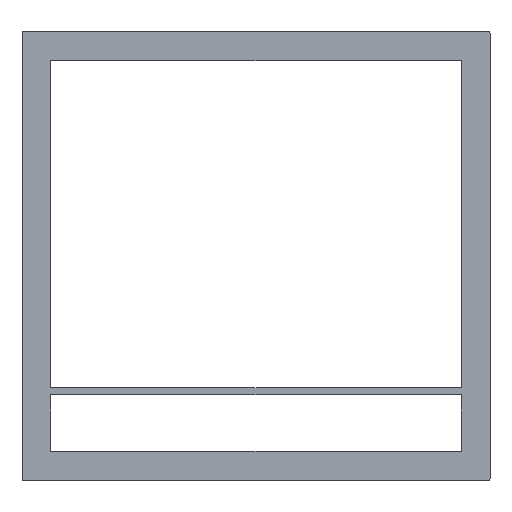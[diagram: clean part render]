
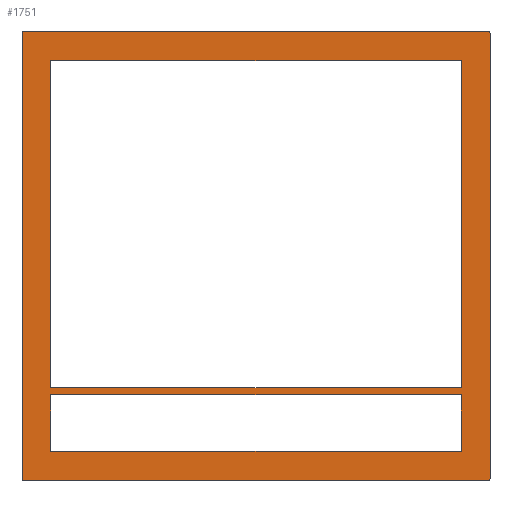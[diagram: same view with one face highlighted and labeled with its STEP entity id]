
A CAD part, top view. The second image highlights one B-rep face of the part: STEP entity #1751.
In plain terms, the highlighted planar face has unit normal (0, 0, 1).
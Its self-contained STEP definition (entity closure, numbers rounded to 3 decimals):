
#201=CARTESIAN_POINT(' ',(178.,169.4,5.));
#202=VERTEX_POINT(' ',#201);
#216=CARTESIAN_POINT(' ',(178.,169.4,5.));
#221=DIRECTION(' ',(-1.,0.,0.));
#226=VECTOR(' ',#221,1.);
#231=LINE('',#216,#226);
#236=CARTESIAN_POINT(' ',(-178.,169.4,5.));
#237=VERTEX_POINT(' ',#236);
#241=EDGE_CURVE(' ',#202,#237,#231,.T.);
#1061=CARTESIAN_POINT(' ',(178.,-114.5,5.));
#1062=VERTEX_POINT(' ',#1061);
#1076=CARTESIAN_POINT(' ',(178.,-114.5,5.));
#1081=DIRECTION(' ',(0.,1.,0.));
#1086=VECTOR(' ',#1081,1.);
#1091=LINE('',#1076,#1086);
#1096=EDGE_CURVE(' ',#1062,#202,#1091,.T.);
#1181=DIRECTION(' ',(0.,0.,1.));
#1186=CARTESIAN_POINT(' ',(-203.,-194.4,5.));
#1191=DIRECTION(' ',(1.,0.,0.));
#1196=AXIS2_PLACEMENT_3D(' ',#1186,#1181,#1191);
#1201=PLANE('',#1196);
#1206=CARTESIAN_POINT(' ',(202.,194.4,5.));
#1211=DIRECTION(' ',(-1.,0.,0.));
#1216=VECTOR(' ',#1211,1.);
#1221=LINE('',#1206,#1216);
#1226=CARTESIAN_POINT(' ',(202.,194.4,5.));
#1227=VERTEX_POINT(' ',#1226);
#1231=CARTESIAN_POINT(' ',(-202.,194.4,5.));
#1232=VERTEX_POINT(' ',#1231);
#1236=EDGE_CURVE(' ',#1227,#1232,#1221,.T.);
#1241=ORIENTED_EDGE(' ',*,*,#1236,.T.);
#1246=CARTESIAN_POINT(' ',(-202.,193.4,5.));
#1251=DIRECTION(' ',(-0.,0.,1.));
#1256=DIRECTION(' ',(0.,1.,0.));
#1261=AXIS2_PLACEMENT_3D(' ',#1246,#1251,#1256);
#1266=CIRCLE('',#1261,1.);
#1271=CARTESIAN_POINT(' ',(-203.,193.4,5.));
#1272=VERTEX_POINT(' ',#1271);
#1276=EDGE_CURVE(' ',#1232,#1272,#1266,.T.);
#1281=ORIENTED_EDGE(' ',*,*,#1276,.T.);
#1286=CARTESIAN_POINT(' ',(-203.,193.4,5.));
#1291=DIRECTION(' ',(0.,-1.,0.));
#1296=VECTOR(' ',#1291,1.);
#1301=LINE('',#1286,#1296);
#1306=CARTESIAN_POINT(' ',(-203.,-193.4,5.));
#1307=VERTEX_POINT(' ',#1306);
#1311=EDGE_CURVE(' ',#1272,#1307,#1301,.T.);
#1316=ORIENTED_EDGE(' ',*,*,#1311,.T.);
#1321=CARTESIAN_POINT(' ',(-202.,-193.4,5.));
#1326=DIRECTION(' ',(-0.,-0.,1.));
#1331=DIRECTION(' ',(-1.,0.,0.));
#1336=AXIS2_PLACEMENT_3D(' ',#1321,#1326,#1331);
#1341=CIRCLE('',#1336,1.);
#1346=CARTESIAN_POINT(' ',(-202.,-194.4,5.));
#1347=VERTEX_POINT(' ',#1346);
#1351=EDGE_CURVE(' ',#1307,#1347,#1341,.T.);
#1356=ORIENTED_EDGE(' ',*,*,#1351,.T.);
#1361=CARTESIAN_POINT(' ',(-202.,-194.4,5.));
#1366=DIRECTION(' ',(1.,0.,0.));
#1371=VECTOR(' ',#1366,1.);
#1376=LINE('',#1361,#1371);
#1381=CARTESIAN_POINT(' ',(202.,-194.4,5.));
#1382=VERTEX_POINT(' ',#1381);
#1386=EDGE_CURVE(' ',#1347,#1382,#1376,.T.);
#1391=ORIENTED_EDGE(' ',*,*,#1386,.T.);
#1396=CARTESIAN_POINT(' ',(202.,-193.4,5.));
#1401=DIRECTION(' ',(0.,-0.,1.));
#1406=DIRECTION(' ',(0.,-1.,0.));
#1411=AXIS2_PLACEMENT_3D(' ',#1396,#1401,#1406);
#1416=CIRCLE('',#1411,1.);
#1421=CARTESIAN_POINT(' ',(203.,-193.4,5.));
#1422=VERTEX_POINT(' ',#1421);
#1426=EDGE_CURVE(' ',#1382,#1422,#1416,.T.);
#1431=ORIENTED_EDGE(' ',*,*,#1426,.T.);
#1436=CARTESIAN_POINT(' ',(203.,-193.4,5.));
#1441=DIRECTION(' ',(0.,1.,0.));
#1446=VECTOR(' ',#1441,1.);
#1451=LINE('',#1436,#1446);
#1456=CARTESIAN_POINT(' ',(203.,193.4,5.));
#1457=VERTEX_POINT(' ',#1456);
#1461=EDGE_CURVE(' ',#1422,#1457,#1451,.T.);
#1466=ORIENTED_EDGE(' ',*,*,#1461,.T.);
#1471=CARTESIAN_POINT(' ',(202.,193.4,5.));
#1476=DIRECTION(' ',(0.,0.,1.));
#1481=DIRECTION(' ',(1.,0.,0.));
#1486=AXIS2_PLACEMENT_3D(' ',#1471,#1476,#1481);
#1491=CIRCLE('',#1486,1.);
#1496=EDGE_CURVE(' ',#1457,#1227,#1491,.T.);
#1501=ORIENTED_EDGE(' ',*,*,#1496,.T.);
#1506=EDGE_LOOP(' ',(#1241,#1281,#1316,#1356,#1391,#1431,#1466,#1501));
#1511=FACE_OUTER_BOUND(' ',#1506,.T.);
#1516=CARTESIAN_POINT(' ',(-178.,-114.5,5.));
#1521=DIRECTION(' ',(1.,0.,0.));
#1526=VECTOR(' ',#1521,1.);
#1531=LINE('',#1516,#1526);
#1536=CARTESIAN_POINT(' ',(-178.,-114.5,5.));
#1537=VERTEX_POINT(' ',#1536);
#1541=EDGE_CURVE(' ',#1537,#1062,#1531,.T.);
#1546=ORIENTED_EDGE(' ',*,*,#1541,.F.);
#1551=CARTESIAN_POINT(' ',(-178.,169.4,5.));
#1556=DIRECTION(' ',(0.,-1.,0.));
#1561=VECTOR(' ',#1556,1.);
#1566=LINE('',#1551,#1561);
#1571=EDGE_CURVE(' ',#237,#1537,#1566,.T.);
#1576=ORIENTED_EDGE(' ',*,*,#1571,.F.);
#1581=ORIENTED_EDGE(' ',*,*,#241,.F.);
#1586=ORIENTED_EDGE(' ',*,*,#1096,.F.);
#1591=EDGE_LOOP(' ',(#1546,#1576,#1581,#1586));
#1596=FACE_BOUND(' ',#1591,.T.);
#1601=CARTESIAN_POINT(' ',(178.,-120.5,5.));
#1606=DIRECTION(' ',(-1.,0.,0.));
#1611=VECTOR(' ',#1606,1.);
#1616=LINE('',#1601,#1611);
#1621=CARTESIAN_POINT(' ',(178.,-120.5,5.));
#1622=VERTEX_POINT(' ',#1621);
#1626=CARTESIAN_POINT(' ',(-178.,-120.5,5.));
#1627=VERTEX_POINT(' ',#1626);
#1631=EDGE_CURVE(' ',#1622,#1627,#1616,.T.);
#1636=ORIENTED_EDGE(' ',*,*,#1631,.F.);
#1641=CARTESIAN_POINT(' ',(178.,-169.4,5.));
#1646=DIRECTION(' ',(0.,1.,0.));
#1651=VECTOR(' ',#1646,1.);
#1656=LINE('',#1641,#1651);
#1661=CARTESIAN_POINT(' ',(178.,-169.4,5.));
#1662=VERTEX_POINT(' ',#1661);
#1666=EDGE_CURVE(' ',#1662,#1622,#1656,.T.);
#1671=ORIENTED_EDGE(' ',*,*,#1666,.F.);
#1676=CARTESIAN_POINT(' ',(-178.,-169.4,5.));
#1681=DIRECTION(' ',(1.,0.,0.));
#1686=VECTOR(' ',#1681,1.);
#1691=LINE('',#1676,#1686);
#1696=CARTESIAN_POINT(' ',(-178.,-169.4,5.));
#1697=VERTEX_POINT(' ',#1696);
#1701=EDGE_CURVE(' ',#1697,#1662,#1691,.T.);
#1706=ORIENTED_EDGE(' ',*,*,#1701,.F.);
#1711=CARTESIAN_POINT(' ',(-178.,-120.5,5.));
#1716=DIRECTION(' ',(0.,-1.,0.));
#1721=VECTOR(' ',#1716,1.);
#1726=LINE('',#1711,#1721);
#1731=EDGE_CURVE(' ',#1627,#1697,#1726,.T.);
#1736=ORIENTED_EDGE(' ',*,*,#1731,.F.);
#1741=EDGE_LOOP(' ',(#1636,#1671,#1706,#1736));
#1746=FACE_BOUND(' ',#1741,.T.);
#1751=ADVANCED_FACE('',(#1511,#1596,#1746),#1201,.T.);
